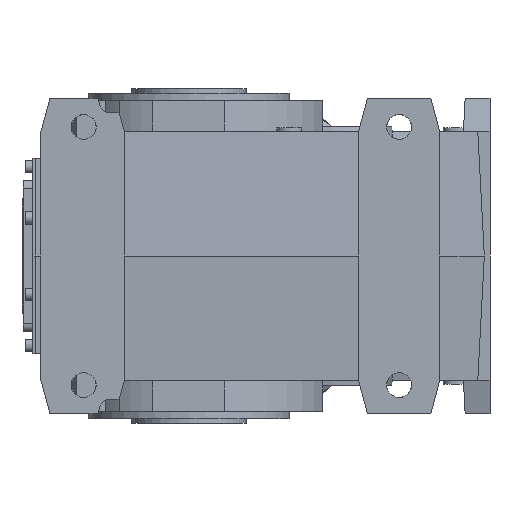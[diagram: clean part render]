
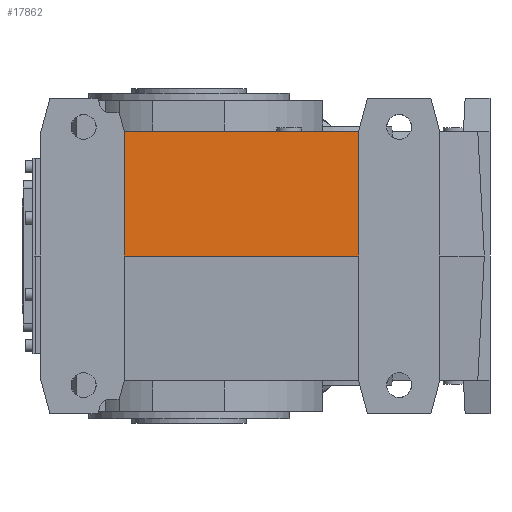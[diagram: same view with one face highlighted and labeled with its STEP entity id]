
A CAD part, left-side view. The second image highlights one B-rep face of the part: STEP entity #17862.
In plain terms, the highlighted planar face has unit normal (-0.999, 0, 0.052) as drawn and (0.999, 0, -0.052) by its records, which use the part's own axes.
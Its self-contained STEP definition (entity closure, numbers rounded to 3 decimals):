
#662=LINE('',#23801,#1941);
#1107=LINE('',#25212,#2386);
#1108=LINE('',#25214,#2387);
#1109=LINE('',#25216,#2388);
#1941=VECTOR('',#19942,1000.);
#2386=VECTOR('',#21269,1000.);
#2387=VECTOR('',#21270,1000.);
#2388=VECTOR('',#21271,1000.);
#4722=ORIENTED_EDGE('',*,*,#7470,.T.);
#4723=ORIENTED_EDGE('',*,*,#7471,.F.);
#4724=ORIENTED_EDGE('',*,*,#7472,.F.);
#4725=ORIENTED_EDGE('',*,*,#6841,.F.);
#6841=EDGE_CURVE('',#8567,#8568,#662,.T.);
#7470=EDGE_CURVE('',#8567,#8969,#1107,.T.);
#7471=EDGE_CURVE('',#8970,#8969,#1108,.T.);
#7472=EDGE_CURVE('',#8568,#8970,#1109,.T.);
#8567=VERTEX_POINT('',#23800);
#8568=VERTEX_POINT('',#23802);
#8969=VERTEX_POINT('',#25213);
#8970=VERTEX_POINT('',#25215);
#10362=EDGE_LOOP('',(#4722,#4723,#4724,#4725));
#11328=FACE_BOUND('',#10362,.T.);
#12147=PLANE('',#18835);
#17862=ADVANCED_FACE('',(#11328),#12147,.F.);
#18835=AXIS2_PLACEMENT_3D('',#25211,#21267,#21268);
#19942=DIRECTION('',(0.,-1.,0.));
#21267=DIRECTION('',(-0.999,0.,0.052));
#21268=DIRECTION('',(0.052,0.,0.999));
#21269=DIRECTION('',(0.052,0.,0.999));
#21270=DIRECTION('',(0.,1.,0.));
#21271=DIRECTION('',(0.052,0.,0.999));
#23800=CARTESIAN_POINT('',(540.187,102.5,-130.));
#23801=CARTESIAN_POINT('',(540.187,0.,-130.));
#23802=CARTESIAN_POINT('',(540.187,-142.5,-130.));
#25211=CARTESIAN_POINT('',(538.353,-142.5,-165.));
#25212=CARTESIAN_POINT('',(538.353,102.5,-165.));
#25213=CARTESIAN_POINT('',(547.,102.5,0.));
#25214=CARTESIAN_POINT('',(547.,-142.5,0.));
#25215=CARTESIAN_POINT('',(547.,-142.5,0.));
#25216=CARTESIAN_POINT('',(538.353,-142.5,-165.));
